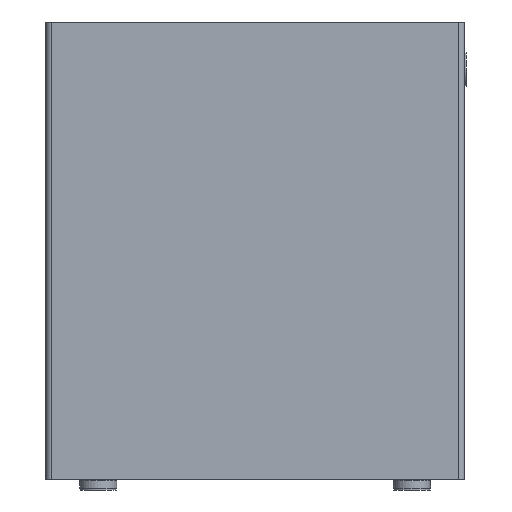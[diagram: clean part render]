
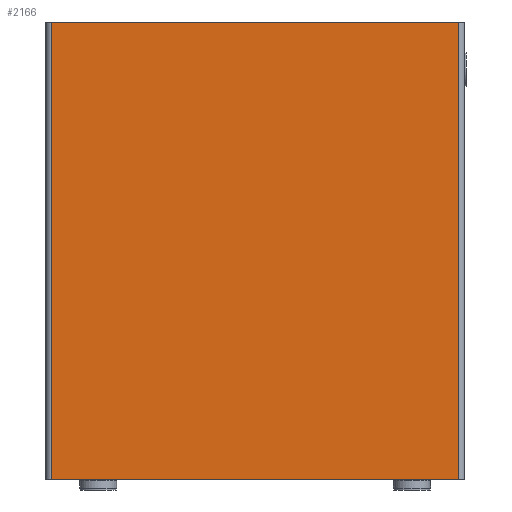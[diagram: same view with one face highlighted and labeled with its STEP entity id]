
A CAD part, front view. The second image highlights one B-rep face of the part: STEP entity #2166.
In plain terms, the highlighted planar face has unit normal (0, -1, 0).
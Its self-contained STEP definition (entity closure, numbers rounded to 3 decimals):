
#158=FACE_OUTER_BOUND('',#300,.T.);
#300=EDGE_LOOP('',(#1336,#1337,#1338,#1339));
#458=LINE('',#3198,#668);
#459=LINE('',#3200,#669);
#460=LINE('',#3202,#670);
#461=LINE('',#3203,#671);
#668=VECTOR('',#2566,10.);
#669=VECTOR('',#2567,10.);
#670=VECTOR('',#2568,10.);
#671=VECTOR('',#2569,10.);
#878=VERTEX_POINT('',#3196);
#879=VERTEX_POINT('',#3197);
#880=VERTEX_POINT('',#3199);
#881=VERTEX_POINT('',#3201);
#1058=EDGE_CURVE('',#878,#879,#458,.T.);
#1059=EDGE_CURVE('',#880,#878,#459,.T.);
#1060=EDGE_CURVE('',#880,#881,#460,.T.);
#1061=EDGE_CURVE('',#881,#879,#461,.T.);
#1336=ORIENTED_EDGE('',*,*,#1058,.F.);
#1337=ORIENTED_EDGE('',*,*,#1059,.F.);
#1338=ORIENTED_EDGE('',*,*,#1060,.T.);
#1339=ORIENTED_EDGE('',*,*,#1061,.T.);
#1892=PLANE('',#2352);
#2166=ADVANCED_FACE('',(#158),#1892,.F.);
#2352=AXIS2_PLACEMENT_3D('',#3195,#2564,#2565);
#2564=DIRECTION('center_axis',(0.,1.,0.));
#2565=DIRECTION('ref_axis',(0.,0.,
-1.));
#2566=DIRECTION('',(0.,0.,-1.));
#2567=DIRECTION('',(1.,0.,0.));
#2568=DIRECTION('',(0.,0.,-1.));
#2569=DIRECTION('',(1.,0.,0.));
#3195=CARTESIAN_POINT('Origin',(0.,-4.,0.));
#3196=CARTESIAN_POINT('',(214.,-4.,240.5));
#3197=CARTESIAN_POINT('',(214.,-4.,-240.5));
#3198=CARTESIAN_POINT('',(214.,-4.,0.));
#3199=CARTESIAN_POINT('',(-214.,-4.,240.5));
#3200=CARTESIAN_POINT('',(-588.25,-4.,240.5));
#3201=CARTESIAN_POINT('',(-214.,-4.,-240.5));
#3202=CARTESIAN_POINT('',(-214.,-4.,0.));
#3203=CARTESIAN_POINT('',(-588.25,-4.,-240.5));
